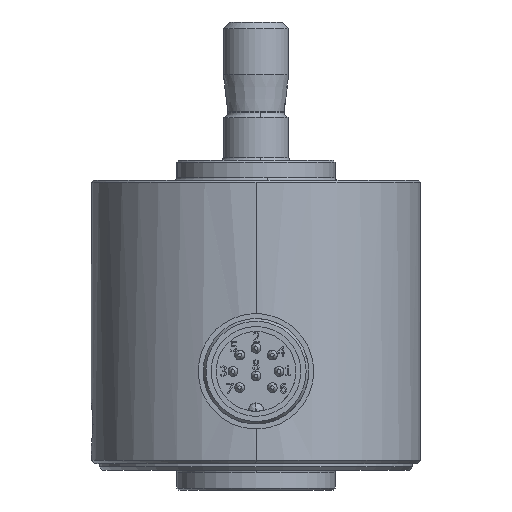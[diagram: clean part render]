
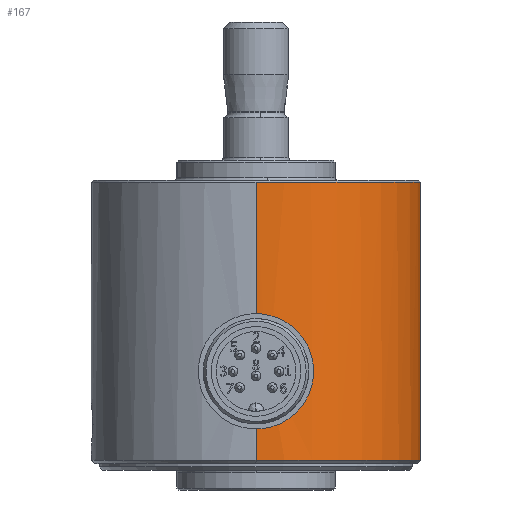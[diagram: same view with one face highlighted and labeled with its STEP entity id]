
A CAD part, left-side view. The second image highlights one B-rep face of the part: STEP entity #167.
In plain terms, the highlighted cylindrical face has radius 25 mm (diameter 50 mm), a partial arc.
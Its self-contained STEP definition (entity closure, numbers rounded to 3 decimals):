
#167=ADVANCED_FACE('',(#553),#554,.T.);
#553=FACE_OUTER_BOUND('',#1285,.T.);
#554=CYLINDRICAL_SURFACE('',#1286,25.0);
#1285=EDGE_LOOP('',(#2955,#2956,#2957,#2958,#2959,#2960,#2961,#2962,#2963));
#1286=AXIS2_PLACEMENT_3D('',#2964,#2965,#2966);
#2955=ORIENTED_EDGE('',*,*,#5356,.T.);
#2956=ORIENTED_EDGE('',*,*,#5382,.F.);
#2957=ORIENTED_EDGE('',*,*,#5266,.F.);
#2958=ORIENTED_EDGE('',*,*,#5359,.T.);
#2959=ORIENTED_EDGE('',*,*,#5383,.T.);
#2960=ORIENTED_EDGE('',*,*,#5384,.T.);
#2961=ORIENTED_EDGE('',*,*,#5239,.T.);
#2962=ORIENTED_EDGE('',*,*,#5357,.T.);
#2963=ORIENTED_EDGE('',*,*,#5385,.F.);
#2964=CARTESIAN_POINT('',(0.,0.,-1.0));
#2965=DIRECTION('',(0.0,0.,1.0));
#2966=DIRECTION('',(1.0,0.0,0.0));
#5239=EDGE_CURVE('',#6263,#6261,#6264,.T.);
#5266=EDGE_CURVE('',#6311,#6305,#6313,.T.);
#5356=EDGE_CURVE('',#6458,#6475,#6476,.T.);
#5357=EDGE_CURVE('',#6261,#6462,#6477,.T.);
#5359=EDGE_CURVE('',#6311,#6478,#6480,.T.);
#5382=EDGE_CURVE('',#6305,#6475,#6511,.T.);
#5383=EDGE_CURVE('',#6478,#6512,#6513,.T.);
#5384=EDGE_CURVE('',#6512,#6263,#6514,.T.);
#5385=EDGE_CURVE('',#6458,#6462,#6515,.T.);
#6261=VERTEX_POINT('',#7869);
#6263=VERTEX_POINT('',#7888);
#6264=B_SPLINE_CURVE_WITH_KNOTS('',3,(#7889,#7890,#7891,#7892),.UNSPECIFIED.,.F.,.F.,(4,4),(0.287,0.301),.UNSPECIFIED.);
#6305=VERTEX_POINT('',#7957);
#6311=VERTEX_POINT('',#7965);
#6313=CIRCLE('',#7967,25.0);
#6458=VERTEX_POINT('',#8254);
#6462=VERTEX_POINT('',#8259);
#6475=VERTEX_POINT('',#8343);
#6476=LINE('',#8344,#8345);
#6477=LINE('',#8346,#8347);
#6478=VERTEX_POINT('',#8348);
#6480=LINE('',#8353,#8354);
#6511=CIRCLE('',#8434,25.0);
#6512=VERTEX_POINT('',#8435);
#6513=B_SPLINE_CURVE_WITH_KNOTS('',3,(#8436,#8437,#8438,#8439,#8440,#8441,#8442,#8443,#8444,#8445),.UNSPECIFIED.,.F.,.F.,(4,2,2,2,4),(0.904,0.98,1.055,1.131,1.206),.UNSPECIFIED.);
#6514=B_SPLINE_CURVE_WITH_KNOTS('',3,(#8446,#8447,#8448,#8449,#8450,#8451,#8452,#8453,#8454,#8455),.UNSPECIFIED.,.F.,.F.,(4,2,2,2,4),(0.0,0.075,0.151,0.226,0.287),.UNSPECIFIED.);
#6515=CIRCLE('',#8456,25.0);
#7869=CARTESIAN_POINT('',(-25.0,0.,11.0));
#7888=CARTESIAN_POINT('',(-25.,-0.143,11.005));
#7889=CARTESIAN_POINT('',(-25.,-0.143,11.005));
#7890=CARTESIAN_POINT('',(-25.,-0.095,11.002));
#7891=CARTESIAN_POINT('',(-25.0,-0.047,11.0));
#7892=CARTESIAN_POINT('',(-25.0,0.,11.0));
#7957=CARTESIAN_POINT('',(3.549,-24.747,41.7));
#7965=CARTESIAN_POINT('',(-25.0,0.,41.7));
#7967=AXIS2_PLACEMENT_3D('',#12229,#12230,#12231);
#8254=CARTESIAN_POINT('',(25.0,0.,-0.5));
#8259=CARTESIAN_POINT('',(-25.0,0.,-0.5));
#8343=CARTESIAN_POINT('',(25.0,0.,41.7));
#8344=CARTESIAN_POINT('',(25.0,0.,20.6));
#8345=VECTOR('',#12403,1.0);
#8346=CARTESIAN_POINT('',(-25.0,0.,20.6));
#8347=VECTOR('',#12404,1.0);
#8348=CARTESIAN_POINT('',(-25.0,0.,15.0));
#8353=CARTESIAN_POINT('',(-25.0,0.,20.6));
#8354=VECTOR('',#12405,1.0);
#8434=AXIS2_PLACEMENT_3D('',#12452,#12453,#12454);
#8435=CARTESIAN_POINT('',(-24.92,-2.,13.0));
#8436=CARTESIAN_POINT('',(-25.0,0.,15.0));
#8437=CARTESIAN_POINT('',(-25.0,-0.251,15.0));
#8438=CARTESIAN_POINT('',(-24.996,-0.519,14.95));
#8439=CARTESIAN_POINT('',(-24.981,-1.012,14.746));
#8440=CARTESIAN_POINT('',(-24.97,-1.237,14.592));
#8441=CARTESIAN_POINT('',(-24.95,-1.592,14.237));
#8442=CARTESIAN_POINT('',(-24.939,-1.746,14.012));
#8443=CARTESIAN_POINT('',(-24.924,-1.95,13.519));
#8444=CARTESIAN_POINT('',(-24.92,-2.,13.251));
#8445=CARTESIAN_POINT('',(-24.92,-2.,13.0));
#8446=CARTESIAN_POINT('',(-24.92,-2.,13.0));
#8447=CARTESIAN_POINT('',(-24.92,-2.,12.749));
#8448=CARTESIAN_POINT('',(-24.924,-1.95,12.481));
#8449=CARTESIAN_POINT('',(-24.939,-1.746,11.988));
#8450=CARTESIAN_POINT('',(-24.95,-1.592,11.763));
#8451=CARTESIAN_POINT('',(-24.97,-1.237,11.408));
#8452=CARTESIAN_POINT('',(-24.981,-1.012,11.254));
#8453=CARTESIAN_POINT('',(-24.994,-0.565,11.069));
#8454=CARTESIAN_POINT('',(-24.998,-0.351,11.02));
#8455=CARTESIAN_POINT('',(-25.,-0.143,11.005));
#8456=AXIS2_PLACEMENT_3D('',#12455,#12456,#12457);
#12229=CARTESIAN_POINT('',(0.,0.,41.7));
#12230=DIRECTION('',(0.,0.,1.0));
#12231=DIRECTION('',(0.142,-0.99,0.));
#12403=DIRECTION('',(0.0,0.,1.0));
#12404=DIRECTION('',(0.0,0.,-1.0));
#12405=DIRECTION('',(0.0,0.,-1.0));
#12452=CARTESIAN_POINT('',(0.,0.,41.7));
#12453=DIRECTION('',(0.,0.,1.0));
#12454=DIRECTION('',(0.142,-0.99,0.));
#12455=CARTESIAN_POINT('',(0.,0.,-0.5));
#12456=DIRECTION('',(0.0,0.0,-1.0));
#12457=DIRECTION('',(1.0,0.0,0.0));
